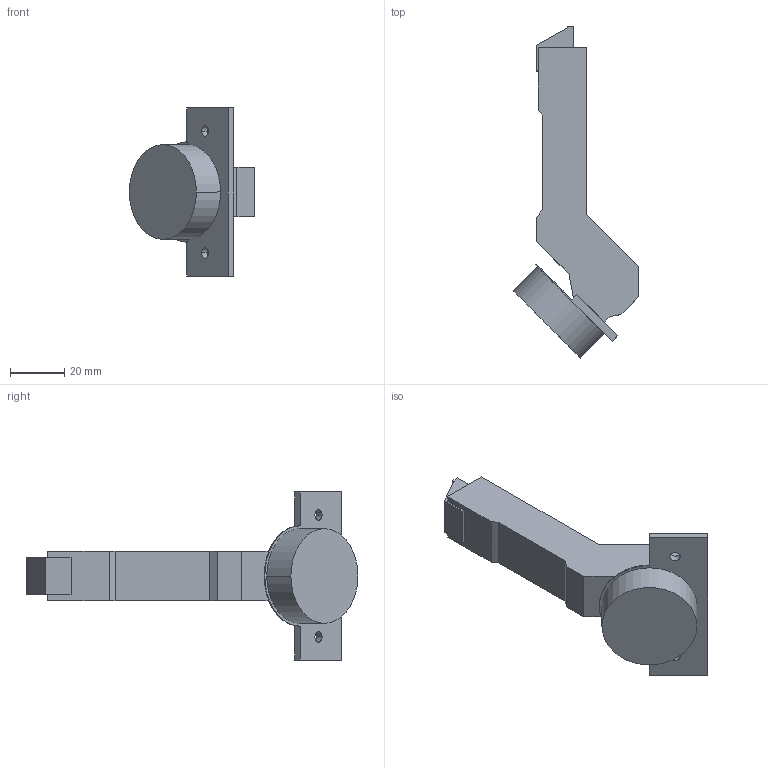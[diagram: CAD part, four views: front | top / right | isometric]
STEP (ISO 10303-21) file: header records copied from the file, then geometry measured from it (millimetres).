
FILE_DESCRIPTION (( 'STEP AP214' ), '1' );
FILE_NAME ('Scharnier T Click-on 110°_+45° B_BB, einliegend.step', '2010-12-13T10:21:37', ( 'grass' ), ( '' ), 'SwSTEP 2.0', 'SolidWorks 2010', '' );
FILE_SCHEMA (( 'AUTOMOTIVE_DESIGN' ));
Length unit declared in the file: millimetre
Products named in the file (1): Scharnier T Click-on 110°_+45° B_BB, einliegend
Bounding box: 46.28 x 122.48 x 62 mm (x, y, z)
Volume: 52404.5 mm3; surface area: 13876.6 mm2
Topology: 1 solids, 1 shells, 50 faces, 132 edges, 88 vertices
Faces by surface type: plane 37, cylinder 13
Entity records: 1584 total; most frequent: CARTESIAN_POINT 271, ORIENTED_EDGE 264, DIRECTION 260, EDGE_CURVE 132, VECTOR 106, LINE 106, VERTEX_POINT 88, AXIS2_PLACEMENT_3D 77
